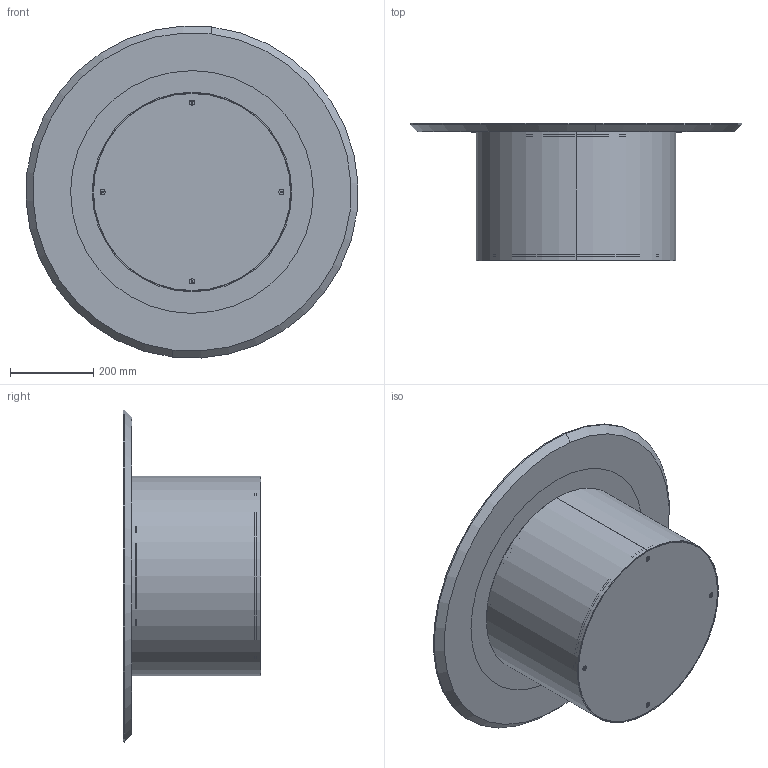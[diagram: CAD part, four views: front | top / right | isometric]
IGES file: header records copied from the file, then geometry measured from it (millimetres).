
Start section: SolidWorks IGES file using analytic representation for surfaces
Global section: file name: Y:\eforma\TECNICO\SOLIDWORKS\E-FORMA\2-TAVOLINI\CILINDRO LOW\02 parts\CL12W.IGS; native system: SolidWorks 2022; preprocessor: SolidWorks 2022; author: eforma.tech; date: 240806.121631; units: millimetre
Bounding box: 798.81 x 330 x 798.81 mm (x, y, z)
Volume: 17481571.1 mm3; surface area: 3808800.2 mm2
Topology: 14 solids, 14 shells, 259 faces, 559 edges, 320 vertices
Faces by surface type: revolution 143, plane 114, bspline 2
